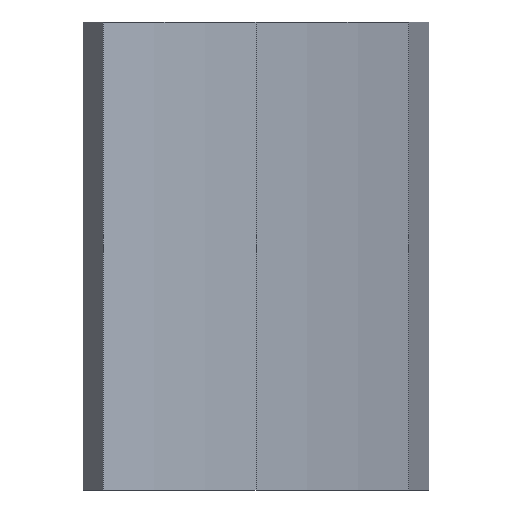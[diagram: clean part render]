
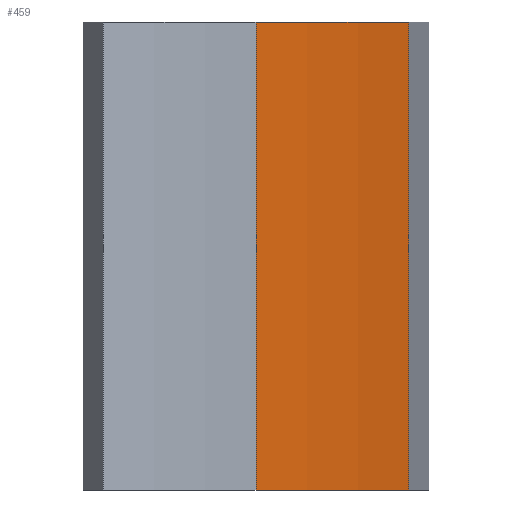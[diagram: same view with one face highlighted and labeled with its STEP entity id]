
A CAD part, left-side view. The second image highlights one B-rep face of the part: STEP entity #459.
In plain terms, the highlighted cylindrical face has radius 6.75 mm (diameter 13.5 mm), a partial arc.
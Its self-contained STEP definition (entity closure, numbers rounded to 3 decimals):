
#73 = PLANE('',#74);
#74 = AXIS2_PLACEMENT_3D('',#75,#76,#77);
#75 = CARTESIAN_POINT('',(0.,0.,6.55));
#76 = DIRECTION('',(0.,0.,1.));
#77 = DIRECTION('',(1.,0.,-0.));
#100 = PLANE('',#101);
#101 = AXIS2_PLACEMENT_3D('',#102,#103,#104);
#102 = CARTESIAN_POINT('',(0.,0.,2.04));
#103 = DIRECTION('',(0.217,0.976,-0.));
#104 = DIRECTION('',(0.976,-0.217,0.));
#126 = PLANE('',#127);
#127 = AXIS2_PLACEMENT_3D('',#128,#129,#130);
#128 = CARTESIAN_POINT('',(0.,0.,2.05));
#129 = DIRECTION('',(0.,0.,1.));
#130 = DIRECTION('',(1.,0.,-0.));
#241 = VERTEX_POINT('',#242);
#242 = CARTESIAN_POINT('',(6.75,0.,2.05));
#257 = CYLINDRICAL_SURFACE('',#258,6.75);
#258 = AXIS2_PLACEMENT_3D('',#259,#260,#261);
#259 = CARTESIAN_POINT('',(0.,0.,2.04));
#260 = DIRECTION('',(0.,0.,1.));
#261 = DIRECTION('',(1.,0.,-0.));
#269 = EDGE_CURVE('',#270,#241,#272,.T.);
#270 = VERTEX_POINT('',#271);
#271 = CARTESIAN_POINT('',(6.589,-1.468,2.05));
#272 = SURFACE_CURVE('',#273,(#278,#285),.PCURVE_S1.);
#273 = CIRCLE('',#274,6.75);
#274 = AXIS2_PLACEMENT_3D('',#275,#276,#277);
#275 = CARTESIAN_POINT('',(0.,0.,2.05));
#276 = DIRECTION('',(0.,0.,1.));
#277 = DIRECTION('',(1.,0.,-0.));
#278 = PCURVE('',#126,#279);
#279 = DEFINITIONAL_REPRESENTATION('',(#280),#284);
#280 = CIRCLE('',#281,6.75);
#281 = AXIS2_PLACEMENT_2D('',#282,#283);
#282 = CARTESIAN_POINT('',(0.,0.));
#283 = DIRECTION('',(1.,0.));
#284 = ( GEOMETRIC_REPRESENTATION_CONTEXT(2) 
PARAMETRIC_REPRESENTATION_CONTEXT() REPRESENTATION_CONTEXT('2D SPACE',''
  ) );
#285 = PCURVE('',#286,#291);
#286 = CYLINDRICAL_SURFACE('',#287,6.75);
#287 = AXIS2_PLACEMENT_3D('',#288,#289,#290);
#288 = CARTESIAN_POINT('',(0.,0.,2.04));
#289 = DIRECTION('',(0.,0.,1.));
#290 = DIRECTION('',(1.,0.,-0.));
#291 = DEFINITIONAL_REPRESENTATION('',(#292),#296);
#292 = LINE('',#293,#294);
#293 = CARTESIAN_POINT('',(0.,0.01));
#294 = VECTOR('',#295,1.);
#295 = DIRECTION('',(1.,0.));
#296 = ( GEOMETRIC_REPRESENTATION_CONTEXT(2) 
PARAMETRIC_REPRESENTATION_CONTEXT() REPRESENTATION_CONTEXT('2D SPACE',''
  ) );
#322 = EDGE_CURVE('',#270,#323,#325,.T.);
#323 = VERTEX_POINT('',#324);
#324 = CARTESIAN_POINT('',(6.589,-1.468,6.55));
#325 = SURFACE_CURVE('',#326,(#330,#336),.PCURVE_S1.);
#326 = LINE('',#327,#328);
#327 = CARTESIAN_POINT('',(6.589,-1.468,2.04));
#328 = VECTOR('',#329,1.);
#329 = DIRECTION('',(0.,0.,1.));
#330 = PCURVE('',#100,#331);
#331 = DEFINITIONAL_REPRESENTATION('',(#332),#335);
#332 = B_SPLINE_CURVE_WITH_KNOTS('',1,(#333,#334),.UNSPECIFIED.,.F.,.F.,
  (2,2),(0.01,4.51),.PIECEWISE_BEZIER_KNOTS.);
#333 = CARTESIAN_POINT('',(6.75,-0.01));
#334 = CARTESIAN_POINT('',(6.75,-4.51));
#335 = ( GEOMETRIC_REPRESENTATION_CONTEXT(2) 
PARAMETRIC_REPRESENTATION_CONTEXT() REPRESENTATION_CONTEXT('2D SPACE',''
  ) );
#336 = PCURVE('',#286,#337);
#337 = DEFINITIONAL_REPRESENTATION('',(#338),#341);
#338 = B_SPLINE_CURVE_WITH_KNOTS('',1,(#339,#340),.UNSPECIFIED.,.F.,.F.,
  (2,2),(0.01,4.51),.PIECEWISE_BEZIER_KNOTS.);
#339 = CARTESIAN_POINT('',(6.064,0.01));
#340 = CARTESIAN_POINT('',(6.064,4.51));
#341 = ( GEOMETRIC_REPRESENTATION_CONTEXT(2) 
PARAMETRIC_REPRESENTATION_CONTEXT() REPRESENTATION_CONTEXT('2D SPACE',''
  ) );
#389 = VERTEX_POINT('',#390);
#390 = CARTESIAN_POINT('',(6.75,0.,6.55));
#412 = EDGE_CURVE('',#323,#389,#413,.T.);
#413 = SURFACE_CURVE('',#414,(#419,#426),.PCURVE_S1.);
#414 = CIRCLE('',#415,6.75);
#415 = AXIS2_PLACEMENT_3D('',#416,#417,#418);
#416 = CARTESIAN_POINT('',(0.,0.,6.55));
#417 = DIRECTION('',(0.,0.,1.));
#418 = DIRECTION('',(1.,0.,-0.));
#419 = PCURVE('',#73,#420);
#420 = DEFINITIONAL_REPRESENTATION('',(#421),#425);
#421 = CIRCLE('',#422,6.75);
#422 = AXIS2_PLACEMENT_2D('',#423,#424);
#423 = CARTESIAN_POINT('',(0.,0.));
#424 = DIRECTION('',(1.,0.));
#425 = ( GEOMETRIC_REPRESENTATION_CONTEXT(2) 
PARAMETRIC_REPRESENTATION_CONTEXT() REPRESENTATION_CONTEXT('2D SPACE',''
  ) );
#426 = PCURVE('',#286,#427);
#427 = DEFINITIONAL_REPRESENTATION('',(#428),#432);
#428 = LINE('',#429,#430);
#429 = CARTESIAN_POINT('',(0.,4.51));
#430 = VECTOR('',#431,1.);
#431 = DIRECTION('',(1.,0.));
#432 = ( GEOMETRIC_REPRESENTATION_CONTEXT(2) 
PARAMETRIC_REPRESENTATION_CONTEXT() REPRESENTATION_CONTEXT('2D SPACE',''
  ) );
#459 = ADVANCED_FACE('',(#460),#286,.F.);
#460 = FACE_BOUND('',#461,.F.);
#461 = EDGE_LOOP('',(#462,#483,#484,#485));
#462 = ORIENTED_EDGE('',*,*,#463,.T.);
#463 = EDGE_CURVE('',#241,#389,#464,.T.);
#464 = SURFACE_CURVE('',#465,(#469,#476),.PCURVE_S1.);
#465 = LINE('',#466,#467);
#466 = CARTESIAN_POINT('',(6.75,0.,2.04));
#467 = VECTOR('',#468,1.);
#468 = DIRECTION('',(0.,0.,1.));
#469 = PCURVE('',#286,#470);
#470 = DEFINITIONAL_REPRESENTATION('',(#471),#475);
#471 = LINE('',#472,#473);
#472 = CARTESIAN_POINT('',(6.283,-0.));
#473 = VECTOR('',#474,1.);
#474 = DIRECTION('',(0.,1.));
#475 = ( GEOMETRIC_REPRESENTATION_CONTEXT(2) 
PARAMETRIC_REPRESENTATION_CONTEXT() REPRESENTATION_CONTEXT('2D SPACE',''
  ) );
#476 = PCURVE('',#257,#477);
#477 = DEFINITIONAL_REPRESENTATION('',(#478),#482);
#478 = LINE('',#479,#480);
#479 = CARTESIAN_POINT('',(0.,-0.));
#480 = VECTOR('',#481,1.);
#481 = DIRECTION('',(0.,1.));
#482 = ( GEOMETRIC_REPRESENTATION_CONTEXT(2) 
PARAMETRIC_REPRESENTATION_CONTEXT() REPRESENTATION_CONTEXT('2D SPACE',''
  ) );
#483 = ORIENTED_EDGE('',*,*,#412,.F.);
#484 = ORIENTED_EDGE('',*,*,#322,.F.);
#485 = ORIENTED_EDGE('',*,*,#269,.T.);
